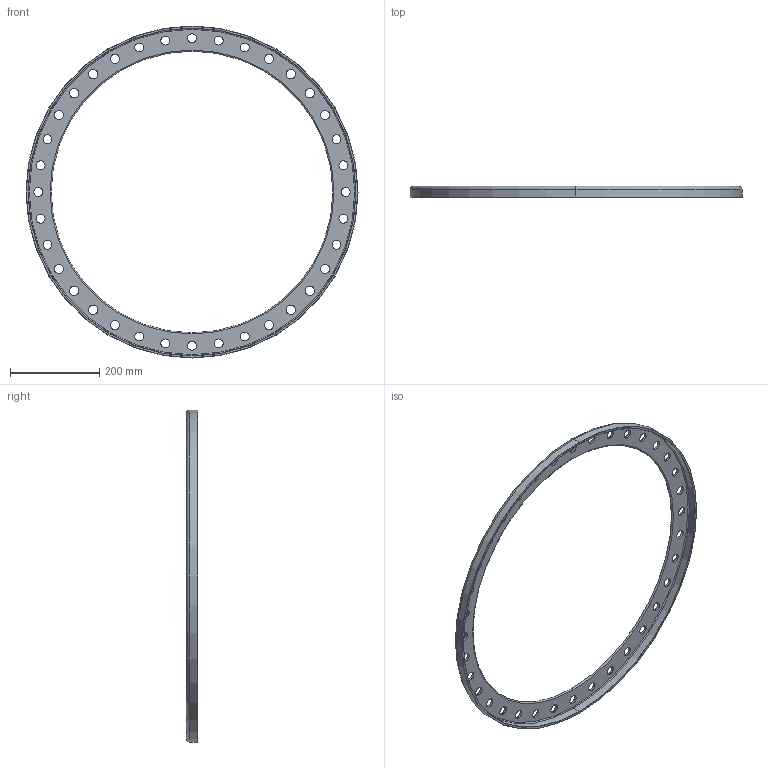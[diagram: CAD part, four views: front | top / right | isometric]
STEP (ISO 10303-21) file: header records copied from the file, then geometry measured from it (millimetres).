
FILE_DESCRIPTION(('CATIA V5 STEP Exchange','CAx-IF Rec.Pracs.--- Composite Materials ---3.4---2017-06-13'),'2;1');
FILE_NAME('C:\Users\PM610867\AppData\Local\ST-WORK_R32_PROD\Liasse-PDF\IEM_PEPSI_CEG_DEF_K_1229_235-COURONNE_EXTERNE_DOME-A.stp','2025-02-14T10:16:12+00:00',('none'),('none'),'CATIA Version 5-6 Release 2022 SP2','CATIA V5 STEP AP203 v2','none');
FILE_SCHEMA(('CONFIG_CONTROL_DESIGN'));
Length unit declared in the file: millimetre
Products named in the file (1): IEM PEPSI CEG DEF K 1229 235
Bounding box: 742.6 x 25 x 742.6 mm (x, y, z)
Volume: 752589.4 mm3; surface area: 330870.6 mm2
Topology: 1 solids, 1 shells, 89 faces, 250 edges, 164 vertices
Faces by surface type: cylinder 76, torus 10, plane 3
Entity records: 2784 total; most frequent: ORIENTED_EDGE 500, CARTESIAN_POINT 463, DIRECTION 346, EDGE_CURVE 250, AXIS2_PLACEMENT_3D 223, CIRCLE 174, EDGE_LOOP 164, VERTEX_POINT 164
